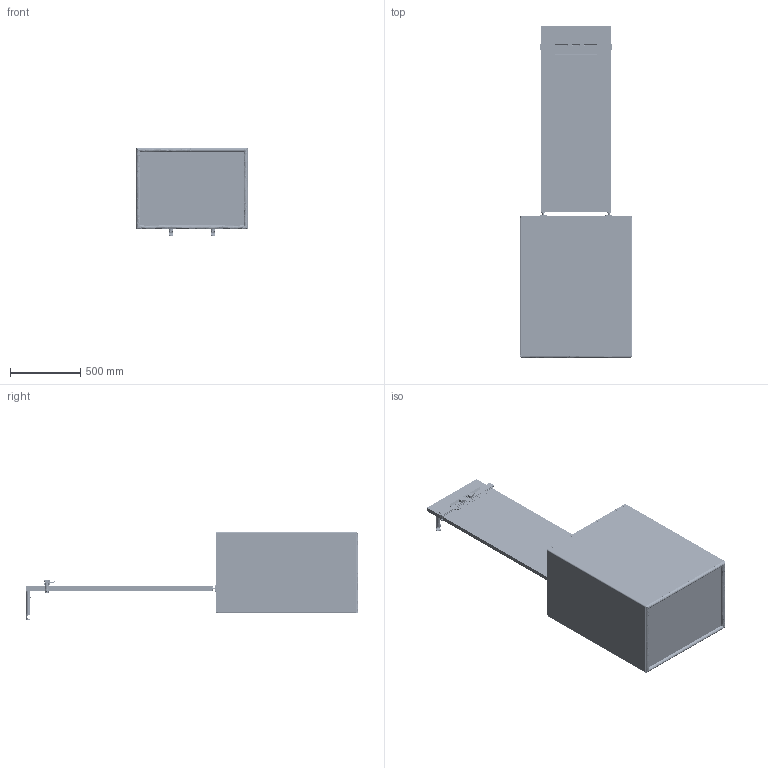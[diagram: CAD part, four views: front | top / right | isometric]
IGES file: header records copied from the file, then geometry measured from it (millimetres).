
Start section: SolidWorks IGES file using analytic representation for surfaces
Global section: file name: O:\PD\2020 New Product Launch\CAD place holder\Modulate\MOD-KIOSK\MOD-KIOSK 92.IGS; native system: SolidWorks 2018; preprocessor: SolidWorks 2018; author: dholley; date: 190822.095232; units: millimetre
Bounding box: 802 x 2371.12 x 629.66 mm (x, y, z)
Surface area: 10363879 mm2 (no closed solid volume)
Topology: 0 solids, 0 shells, 4683 faces, 70652 edges, 70528 vertices
Faces by surface type: bspline 2769, revolution 1914
